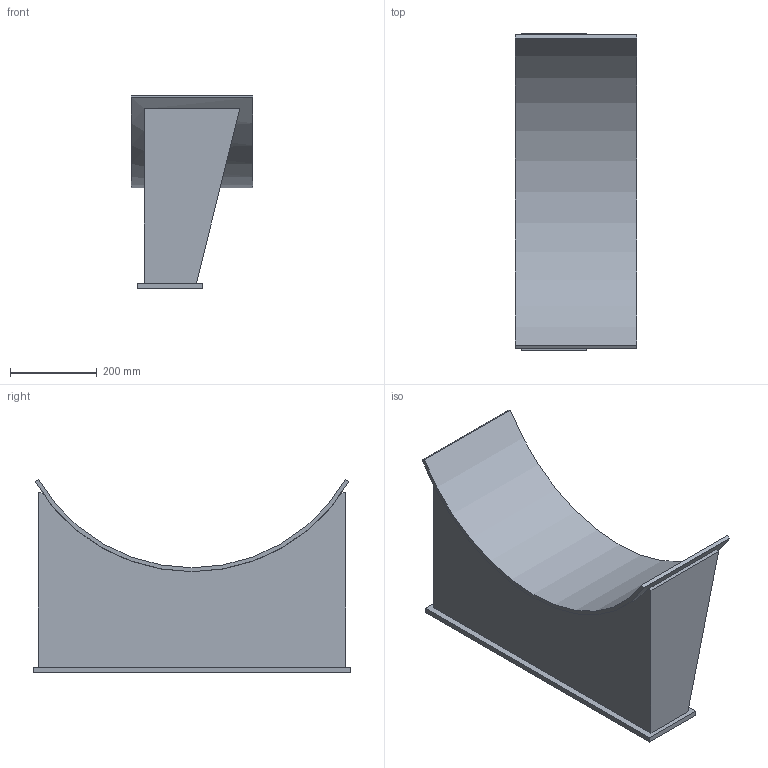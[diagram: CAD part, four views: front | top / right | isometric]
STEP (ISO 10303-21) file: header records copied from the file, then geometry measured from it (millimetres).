
FILE_DESCRIPTION(/* description */ (''),/* implementation_level */ '2;1');
FILE_NAME(/* name */ 'C:\Users\D\Documents\Inventor\HP\JPI\横置きタンクサドル\重荷重用\hc-saddle-hl_800.stp',/* time_stamp */ '2026-01-27T18:46:27+09:00',/* author */ ('D'),/* organization */ (''),/* preprocessor_version */ 'ST-DEVELOPER v18',/* originating_system */ 'Autodesk Inventor 2020',/* authorisation */ '');
FILE_SCHEMA (('AUTOMOTIVE_DESIGN { 1 0 10303 214 3 1 1 }'));
Length unit declared in the file: millimetre
Products named in the file (1): 200A
Bounding box: 280 x 730 x 443.88 mm (x, y, z)
Volume: 6409488.3 mm3; surface area: 1391041 mm2
Topology: 1 solids, 1 shells, 24 faces, 60 edges, 40 vertices
Faces by surface type: plane 20, cylinder 4
Full cylindrical faces by diameter (mm): 23 x2
Entity records: 779 total; most frequent: CARTESIAN_POINT 127, ORIENTED_EDGE 124, DIRECTION 124, EDGE_CURVE 62, LINE 50, VECTOR 50, VERTEX_POINT 40, AXIS2_PLACEMENT_3D 37
